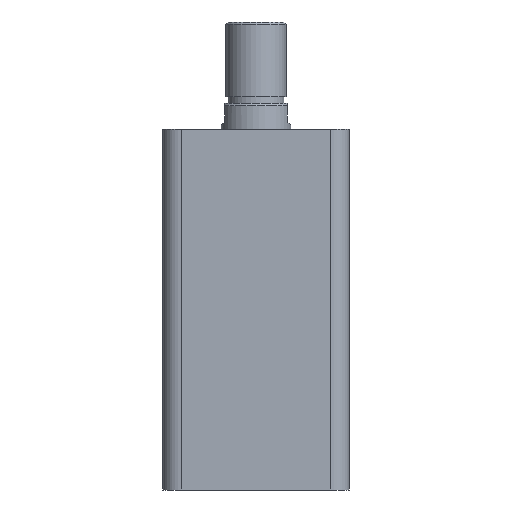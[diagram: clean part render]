
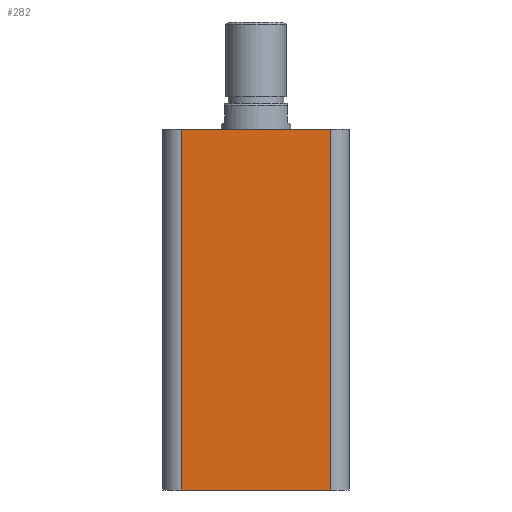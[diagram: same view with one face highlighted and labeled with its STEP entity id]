
A CAD part, front view. The second image highlights one B-rep face of the part: STEP entity #282.
In plain terms, the highlighted planar face has unit normal (0, -1, 0).
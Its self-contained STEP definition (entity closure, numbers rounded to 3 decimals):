
#71 = DIRECTION ( 'NONE',  ( 0., 0., 1. ) ) ;
#73 = DIRECTION ( 'NONE',  ( 0., 1., 0. ) ) ;
#74 = PLANE ( 'NONE',  #2327 ) ;
#80 = CARTESIAN_POINT ( 'NONE',  ( -40., -40., 155. ) ) ;
#282 = ADVANCED_FACE ( 'NONE', ( #609 ), #74, .F. ) ;
#325 = EDGE_CURVE ( 'NONE', #663, #562, #526, .T. ) ;
#326 = EDGE_CURVE ( 'NONE', #663, #662, #524, .T. ) ;
#327 = EDGE_CURVE ( 'NONE', #662, #356, #528, .T. ) ;
#328 = EDGE_CURVE ( 'NONE', #356, #562, #519, .T. ) ;
#356 = VERTEX_POINT ( 'NONE', #1518 ) ;
#515 = VECTOR ( 'NONE', #1618, 1000. ) ;
#517 = VECTOR ( 'NONE', #1644, 1000. ) ;
#519 = LINE ( 'NONE', #1633, #515 ) ;
#521 = VECTOR ( 'NONE', #1634, 1000. ) ;
#523 = VECTOR ( 'NONE', #1647, 1000. ) ;
#524 = LINE ( 'NONE', #1653, #521 ) ;
#526 = LINE ( 'NONE', #1661, #523 ) ;
#528 = LINE ( 'NONE', #1672, #517 ) ;
#562 = VERTEX_POINT ( 'NONE', #1419 ) ;
#609 = FACE_OUTER_BOUND ( 'NONE', #1319, .T. ) ;
#662 = VERTEX_POINT ( 'NONE', #1597 ) ;
#663 = VERTEX_POINT ( 'NONE', #1594 ) ;
#884 = ORIENTED_EDGE ( 'NONE', *, *, #325, .F. ) ;
#885 = ORIENTED_EDGE ( 'NONE', *, *, #326, .T. ) ;
#886 = ORIENTED_EDGE ( 'NONE', *, *, #327, .T. ) ;
#887 = ORIENTED_EDGE ( 'NONE', *, *, #328, .T. ) ;
#1319 = EDGE_LOOP ( 'NONE', ( #884, #885, #886, #887 ) ) ;
#1419 = CARTESIAN_POINT ( 'NONE',  ( 32., -40., 155. ) ) ;
#1518 = CARTESIAN_POINT ( 'NONE',  ( 32., -40., 0. ) ) ;
#1594 = CARTESIAN_POINT ( 'NONE',  ( -32., -40., 155. ) ) ;
#1597 = CARTESIAN_POINT ( 'NONE',  ( -32., -40., 0. ) ) ;
#1618 = DIRECTION ( 'NONE',  ( 0., 0., 1. ) ) ;
#1633 = CARTESIAN_POINT ( 'NONE',  ( 32., -40., 155. ) ) ;
#1634 = DIRECTION ( 'NONE',  ( 0., 0., -1. ) ) ;
#1644 = DIRECTION ( 'NONE',  ( 1., 0., 0. ) ) ;
#1647 = DIRECTION ( 'NONE',  ( 1., 0., 0. ) ) ;
#1653 = CARTESIAN_POINT ( 'NONE',  ( -32., -40., 155. ) ) ;
#1661 = CARTESIAN_POINT ( 'NONE',  ( -40., -40., 155. ) ) ;
#1672 = CARTESIAN_POINT ( 'NONE',  ( -40., -40., 0. ) ) ;
#2327 = AXIS2_PLACEMENT_3D ( 'NONE', #80, #73, #71 ) ;
